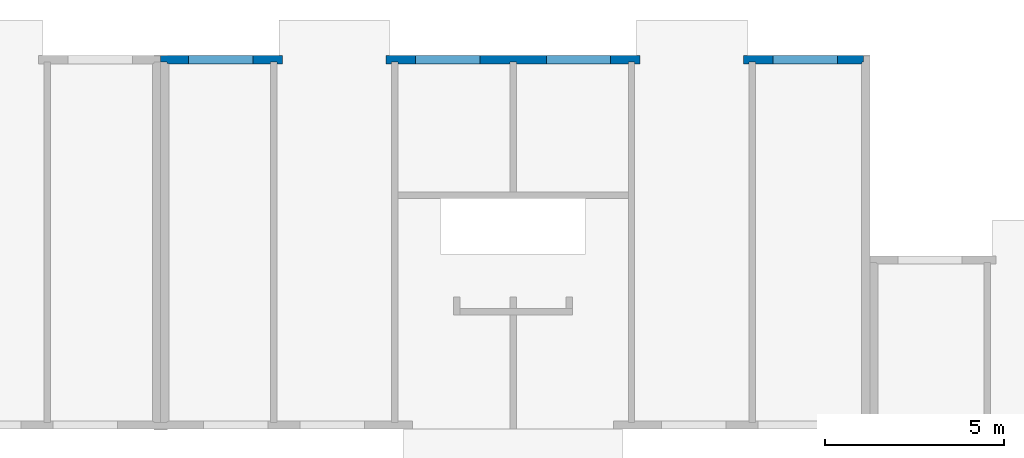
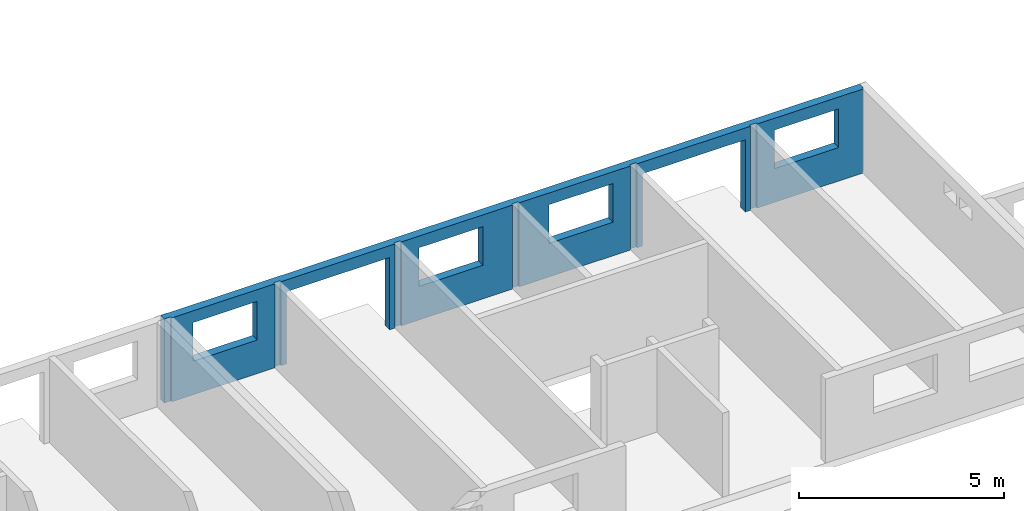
# One storey, part 6 of 9: 1 wall, 6 openings.
"""IFC2X3 building model written with IfcOpenShell, lengths in millimetres."""

import ifcopenshell
import ifcopenshell.guid

model = None  # the IFC model being written
_history = None  # IfcOwnerHistory: only IFC2X3 demands one
_inside = {}  # id of a spatial element -> (the spatial element, [elements in it])
_under = {}  # id of a project, library or spatial element -> (it, [spatial elements below it])
_declared = {}  # id of a project -> (the project, [libraries it declares])
_typed = {}  # id of a type object -> (the type object, [elements of that type])
_made_of = {}  # id of a material, layer set ... -> (it, [elements and type objects made of it])


def new_model(schema):
    """Start an empty IFC model of exactly this schema.

    Asked for "IFC4X3", IfcOpenShell would pick the latest addendum, in which some entities
    have other attributes; the version numbers below select the first issue.
    IFC2X3 requires an IfcOwnerHistory on every rooted entity: one is made here for all.
    """
    global model, _history
    if schema == "IFC4X3":
        model = ifcopenshell.file(schema_version=(4, 3, 0, 0))
    else:
        model = ifcopenshell.file(schema=schema)
    _inside.clear()
    _under.clear()
    _declared.clear()
    _typed.clear()
    _made_of.clear()
    _history = None
    if model.schema == "IFC2X3":
        org = make("IfcOrganization", Name="unknown")
        user = make(
            "IfcPersonAndOrganization",
            ThePerson=make("IfcPerson", FamilyName="unknown"),
            TheOrganization=org,
        )
        app = make(
            "IfcApplication",
            ApplicationDeveloper=org,
            Version="unknown",
            ApplicationFullName="unknown",
            ApplicationIdentifier="unknown",
        )
        _history = make(
            "IfcOwnerHistory",
            OwningUser=user,
            OwningApplication=app,
            ChangeAction="ADDED",
            CreationDate=0,
        )
    return model


def make(cls, **values):
    """One entity of the class cls with the attributes given. An attribute that is None is left unset."""
    return model.create_entity(
        cls, **{name: value for name, value in values.items() if value is not None}
    )


def entity(cls, *values):
    """Any entity or typed value of the class cls, its attributes in the order of the schema. None: left unset."""
    e = model.create_entity(cls)
    for i, value in enumerate(values):
        if value is not None:
            e[i] = value
    return e


def rooted(cls, **values):
    """An entity with a GlobalId (a new one), such as an element, a storey or a relation."""
    return make(cls, GlobalId=ifcopenshell.guid.new(), OwnerHistory=_history, **values)


def si_unit(unit_type, name, prefix=None):
    """IfcSIUnit, for example si_unit("LENGTHUNIT", "METRE", prefix="MILLI")."""
    return make("IfcSIUnit", UnitType=unit_type, Prefix=prefix, Name=name)


def converted_unit(unit_type, name, factor, base, dimensions=None, offset=None):
    """IfcConversionBasedUnit, such as the inch: factor (a typed value) times the base unit."""
    return make(
        "IfcConversionBasedUnit"
        if offset is None
        else "IfcConversionBasedUnitWithOffset",
        ConversionOffset=offset,
        Dimensions=None
        if dimensions is None
        else entity("IfcDimensionalExponents", *dimensions),
        UnitType=unit_type,
        Name=name,
        ConversionFactor=make(
            "IfcMeasureWithUnit", ValueComponent=factor, UnitComponent=base
        ),
    )


def assignment(units):
    """IfcUnitAssignment: the units of a project."""
    return None if units is None else make("IfcUnitAssignment", Units=units)


def point(xyz):
    """IfcCartesianPoint."""
    return None if xyz is None else make("IfcCartesianPoint", Coordinates=xyz)


def direction(xyz):
    """IfcDirection."""
    return None if xyz is None else make("IfcDirection", DirectionRatios=xyz)


def frame(location, z_axis=None, x_axis=None):
    """IfcAxis2Placement3D, a coordinate frame: its origin and axes. An axis left out is left unset."""
    return make(
        "IfcAxis2Placement3D",
        Location=point(location),
        Axis=direction(z_axis),
        RefDirection=direction(x_axis),
    )


def frame_2d(location, x_axis=None):
    """IfcAxis2Placement2D, a coordinate frame in the plane: its origin and x axis."""
    return make(
        "IfcAxis2Placement2D", Location=point(location), RefDirection=direction(x_axis)
    )


def origin():
    """The frame at (0, 0, 0) with its axes left unset."""
    return frame((0.0, 0.0, 0.0))


def origin_with_axes():
    """The frame at (0, 0, 0) with the z axis (0, 0, 1) and the x axis (1, 0, 0) written out."""
    return frame((0.0, 0.0, 0.0), z_axis=(0.0, 0.0, 1.0), x_axis=(1.0, 0.0, 0.0))


def place(relative_to, where):
    """IfcLocalPlacement: puts the frame where relative to a parent placement (None: the world)."""
    return make(
        "IfcLocalPlacement", PlacementRelTo=relative_to, RelativePlacement=where
    )


def context(
    kind, dimensions, precision=None, world=None, true_north=None, identifier=None
):
    """IfcGeometricRepresentationContext, for example the 3D "Model" context."""
    return make(
        "IfcGeometricRepresentationContext",
        ContextIdentifier=identifier,
        ContextType=kind,
        CoordinateSpaceDimension=dimensions,
        Precision=precision,
        WorldCoordinateSystem=world,
        TrueNorth=true_north,
    )


def subcontext(parent, identifier, kind, view, scale=None):
    """IfcGeometricRepresentationSubContext, for example "Body" below "Model"."""
    return make(
        "IfcGeometricRepresentationSubContext",
        ContextIdentifier=identifier,
        ContextType=kind,
        ParentContext=parent,
        TargetScale=scale,
        TargetView=view,
    )


def project(units=None, contexts=None):
    """IfcProject with its units and contexts."""
    return rooted(
        "IfcProject",
        Name="project",
        RepresentationContexts=contexts,
        UnitsInContext=assignment(units),
    )


def spatial(cls, under=None, at=None, **own):
    """A site, building, storey or space (cls), placed at a placement, below another one or the project."""
    s = rooted(cls, ObjectPlacement=at, **own)
    if under is not None:
        _under.setdefault(under.id(), (under, []))[1].append(s)
    return s


def polyline(points):
    """IfcPolyline through the points."""
    return make("IfcPolyline", Points=[point(p) for p in points])


def profile(cls, at=None, kind="AREA", **sizes):
    """A parametric profile (cls). Its sizes go by their IFC names, for example OverallWidth=200.0."""
    return make(cls, ProfileType=kind, Position=at, **sizes)


def rectangle(**sizes):
    """IfcRectangleProfileDef."""
    return profile("IfcRectangleProfileDef", **sizes)


def outline(outer, holes=None, kind="AREA"):
    """IfcArbitraryClosedProfileDef: a profile drawn as a closed curve; with holes, ...WithVoids."""
    if holes is None:
        return make("IfcArbitraryClosedProfileDef", ProfileType=kind, OuterCurve=outer)
    return make(
        "IfcArbitraryProfileDefWithVoids",
        ProfileType=kind,
        OuterCurve=outer,
        InnerCurves=holes,
    )


def extrude(swept, where, along, depth):
    """IfcExtrudedAreaSolid: the profile swept, set in the frame where, extruded along a direction by depth."""
    return make(
        "IfcExtrudedAreaSolid",
        SweptArea=swept,
        Position=where,
        ExtrudedDirection=direction(along),
        Depth=depth,
    )


def shape(context_of_items, identifier, shape_type, items):
    """IfcShapeRepresentation: the items that make up one representation, for example the "Body"."""
    return make(
        "IfcShapeRepresentation",
        ContextOfItems=context_of_items,
        RepresentationIdentifier=identifier,
        RepresentationType=shape_type,
        Items=items,
    )


def material(Name=None, Category=None):
    """IfcMaterial."""
    return make("IfcMaterial", Name=Name, Category=Category)


def layer(
    of_material, thickness, ventilated=None, Name=None, Category=None, Priority=None
):
    """IfcMaterialLayer: one layer of a wall or slab, of a material (None: an air gap)."""
    return make(
        "IfcMaterialLayer",
        Material=of_material,
        LayerThickness=thickness,
        IsVentilated=ventilated,
        Name=Name,
        Category=Category,
        Priority=Priority,
    )


def layer_set(layers, Name=None):
    """IfcMaterialLayerSet."""
    return make("IfcMaterialLayerSet", MaterialLayers=layers, LayerSetName=Name)


def layer_usage(for_layer_set, set_direction, sense, offset, extent=None):
    """IfcMaterialLayerSetUsage: how a layer set lies in its element."""
    return make(
        "IfcMaterialLayerSetUsage",
        ForLayerSet=for_layer_set,
        LayerSetDirection=set_direction,
        DirectionSense=sense,
        OffsetFromReferenceLine=offset,
        ReferenceExtent=extent,
    )


def made_of(thing, what):
    """Note that an element or type object is made of a material, layer set ...; save() writes the relation."""
    if what is not None:
        _made_of.setdefault(what.id(), (what, []))[1].append(thing)
    return thing


def element(
    cls,
    number,
    at=None,
    inside=None,
    cuts=None,
    type_object=None,
    material=None,
    context=None,
    identifier="Body",
    shape_type=None,
    held_by="IfcProductDefinitionShape",
    body=None,
    shapes=None,
    **own,
):
    """One element of the class cls, such as IfcWall. Its Tag is "e" and its number.

    at: its placement. inside: the storey or other place that contains it. cuts: it is an
    opening in that element (IfcRelVoidsElement). A single representation is given by context,
    identifier, shape_type and body (its items); several are given by shapes. held_by: the class
    of the entity that holds the representations. save() writes the other relations.
    """
    e = rooted(cls, Tag="e%d" % number, ObjectPlacement=at, **own)
    if body is not None:
        shapes = [shape(context, identifier, shape_type, body)]
    if shapes is not None:
        e.Representation = make(held_by, Representations=shapes)
    if inside is not None:
        _inside.setdefault(inside.id(), (inside, []))[1].append(e)
    if cuts is not None:
        rooted(
            "IfcRelVoidsElement", RelatingBuildingElement=cuts, RelatedOpeningElement=e
        )
    if type_object is not None:
        _typed.setdefault(type_object.id(), (type_object, []))[1].append(e)
    return made_of(e, material)


def aggregate(whole, parts):
    """IfcRelAggregates: a whole, such as a stair, and the parts it consists of."""
    return rooted("IfcRelAggregates", RelatingObject=whole, RelatedObjects=parts)


def save(model, path):
    """Write the relations noted so far, then the file.

    IfcRelAggregates (storeys below a building ...), IfcRelContainedInSpatialStructure (elements
    in a storey), IfcRelDefinesByType, IfcRelAssociatesMaterial and IfcRelDeclares: one each for
    every whole, place, type object, material and project.
    """
    for whole, parts in _under.values():
        aggregate(whole, parts)
    for where, things in _inside.values():
        rooted(
            "IfcRelContainedInSpatialStructure",
            RelatedElements=things,
            RelatingStructure=where,
        )
    for kind, things in _typed.values():
        rooted("IfcRelDefinesByType", RelatedObjects=things, RelatingType=kind)
    for what, things in _made_of.values():
        rooted("IfcRelAssociatesMaterial", RelatedObjects=things, RelatingMaterial=what)
    for by, libraries in _declared.values():
        rooted("IfcRelDeclares", RelatingContext=by, RelatedDefinitions=libraries)
    model.write(path)


model = new_model("IFC2X3")

# Units and contexts
model_context = context("Model", 3, precision=1e-05, world=origin())
plan_context = context("Plan", 3, precision=1e-05, world=origin())
body_context = subcontext(model_context, "Body", "Model", "MODEL_VIEW")
ifc_project = project(units=[si_unit("LENGTHUNIT", "METRE", prefix="MILLI"), converted_unit("PLANEANGLEUNIT", "DEGREE", entity("IfcPlaneAngleMeasure", 0.0174532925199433), si_unit("PLANEANGLEUNIT", "RADIAN"), dimensions=[0, 0, 0, 0, 0, 0, 0]), si_unit("AREAUNIT", "SQUARE_METRE"), si_unit("VOLUMEUNIT", "CUBIC_METRE")], contexts=[model_context, plan_context])

# Building, storey
building_placement = place(None, origin())
building = spatial("IfcBuilding", under=ifc_project, at=building_placement, Name="Bâtiment", CompositionType="ELEMENT")
storey_placement = place(building_placement, frame((0.0, 0.0, 2700.0), z_axis=(0.0, 0.0, 1.0), x_axis=(1.0, 0.0, 0.0)))
storey = spatial("IfcBuildingStorey", under=building, at=storey_placement, Name="r+1", CompositionType="ELEMENT", Elevation=2700.0)

# Wall, openings
ifc_material_1 = material(Name="moellons")
ifc_layer_1 = layer(ifc_material_1, 179.9999999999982)
ifc_material_2 = material(Name="briquettes")
ifc_layer_2 = layer(ifc_material_2, 40.0)
ifc_material_3 = material(Name="enduit platre")
ifc_layer_3 = layer(ifc_material_3, 10.0)
ifc_layer_set = layer_set([ifc_layer_1, ifc_layer_2, ifc_layer_3])
ifc_layer_usage = layer_usage(ifc_layer_set, "AXIS2", "POSITIVE", 0.0)
wall_placement = place(storey_placement, frame((39519.99999999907, 10470.07776548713, 0.0), z_axis=(0.0, 0.0, 1.0), x_axis=(-1.0, 9.247531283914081e-17, 0.0)))
wall = element("IfcWallStandardCase", 1, at=wall_placement, inside=storey, material=ifc_layer_usage, context=body_context, shape_type="SweptSolid", body=[
    extrude(outline(polyline([(16590.00000000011, 179.9999999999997), (16410.00000000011, 179.9999999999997), (16410.00000000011, 229.9999999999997), (13209.99993823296, 229.9999999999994), (13209.99993823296, 179.9999999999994), (13029.99993823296, 179.9999999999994), (13029.99993823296, 229.9999999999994), (9894.999999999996, 229.9999999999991), (9894.999999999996, 179.9999999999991), (9714.999999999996, 179.9999999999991), (9714.999999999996, 229.9999999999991), (6580.0, 229.9999999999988), (6580.0, 180.0000000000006), (6400.0, 180.0000000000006), (6400.0, 229.9999999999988), (3199.999999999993, 230.0000000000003), (3199.999999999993, 180.0000000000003), (3019.999999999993, 180.0000000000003), (3019.999999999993, 230.0000000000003), (49.99999999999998, 230.0), (49.99999999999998, 220.0), (39.99999999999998, 220.0), (39.99999999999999, 180.0), (-1.664555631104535e-14, 180.0), (0.0, 0.0), (19669.99999999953, 0.0), (19669.99999999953, 180.0), (19489.99999999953, 180.0), (19489.99999999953, 220.0), (19449.99999999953, 220.0), (19449.99999999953, 230.0), (16590.00000000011, 229.9999999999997), (16590.00000000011, 179.9999999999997)])), origin_with_axes(), (0.0, 0.0, 1.0), 2500.0),
])
opening_1_placement = place(wall_placement, frame((17084.99999999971, -1.818989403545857e-12, 1000.0), z_axis=(0.0, 1.0, 0.0), x_axis=(0.0, 0.0, 1.0)))
element("IfcOpeningElement", 2, at=opening_1_placement, cuts=wall, Name="Baie de fenêtre", ObjectType="Opening", context=body_context, shape_type="SweptSolid", body=[
    extrude(rectangle(XDim=1150.0, YDim=1800.0, at=frame_2d((575.0, 900.0), x_axis=(1.0, 0.0))), origin_with_axes(), (0.0, 0.0, 1.0), 230.0),
])
opening_2_placement = place(wall_placement, frame((10735.00000000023, -1.818989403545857e-12, 1000.0), z_axis=(0.0, 1.0, 0.0), x_axis=(0.0, 0.0, 1.0)))
element("IfcOpeningElement", 3, at=opening_2_placement, cuts=wall, Name="Baie de fenêtre", ObjectType="Opening", context=body_context, shape_type="SweptSolid", body=[
    extrude(rectangle(XDim=1150.0, YDim=1800.0, at=frame_2d((575.0, 900.0), x_axis=(1.0, 0.0))), origin_with_axes(), (0.0, 0.0, 1.0), 230.0),
])
opening_3_placement = place(wall_placement, frame((7074.999999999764, 0.0, 1000.0), z_axis=(0.0, 1.0, 0.0), x_axis=(0.0, 0.0, 1.0)))
element("IfcOpeningElement", 4, at=opening_3_placement, cuts=wall, Name="Baie de fenêtre", ObjectType="Opening", context=body_context, shape_type="SweptSolid", body=[
    extrude(rectangle(XDim=1150.0, YDim=1800.0, at=frame_2d((575.0, 900.0), x_axis=(1.0, 0.0))), origin_with_axes(), (0.0, 0.0, 1.0), 230.0),
])
opening_4_placement = place(wall_placement, frame((725.0000000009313, 0.0, 1000.0), z_axis=(0.0, 1.0, 0.0), x_axis=(0.0, 0.0, 1.0)))
element("IfcOpeningElement", 5, at=opening_4_placement, cuts=wall, Name="Baie de fenêtre", ObjectType="Opening", context=body_context, shape_type="SweptSolid", body=[
    extrude(rectangle(XDim=1150.0, YDim=1800.0, at=frame_2d((575.0, 900.0), x_axis=(1.0, 0.0))), origin_with_axes(), (0.0, 0.0, 1.0), 230.0),
])
opening_5_placement = place(wall_placement, frame((13359.96872355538, -1.818989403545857e-12, 0.0), z_axis=(0.0, 1.0, 0.0), x_axis=(0.0, 0.0, 1.0)))
element("IfcOpeningElement", 6, at=opening_5_placement, cuts=wall, Name="Baie de porte", ObjectType="Opening", context=body_context, shape_type="SweptSolid", body=[
    extrude(rectangle(XDim=2150.0, YDim=2900.0, at=frame_2d((1075.0, 1450.0), x_axis=(1.0, 0.0))), origin_with_axes(), (0.0, 0.0, 1.0), 230.0),
])
opening_6_placement = place(wall_placement, frame((3350.370189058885, 0.0, 0.0), z_axis=(0.0, 1.0, 0.0), x_axis=(0.0, 0.0, 1.0)))
element("IfcOpeningElement", 7, at=opening_6_placement, cuts=wall, Name="Baie de porte", ObjectType="Opening", context=body_context, shape_type="SweptSolid", body=[
    extrude(rectangle(XDim=2150.0, YDim=2900.0, at=frame_2d((1075.0, 1450.0), x_axis=(1.0, 0.0))), origin_with_axes(), (0.0, 0.0, 1.0), 230.0),
])

save(model, "model.ifc")
